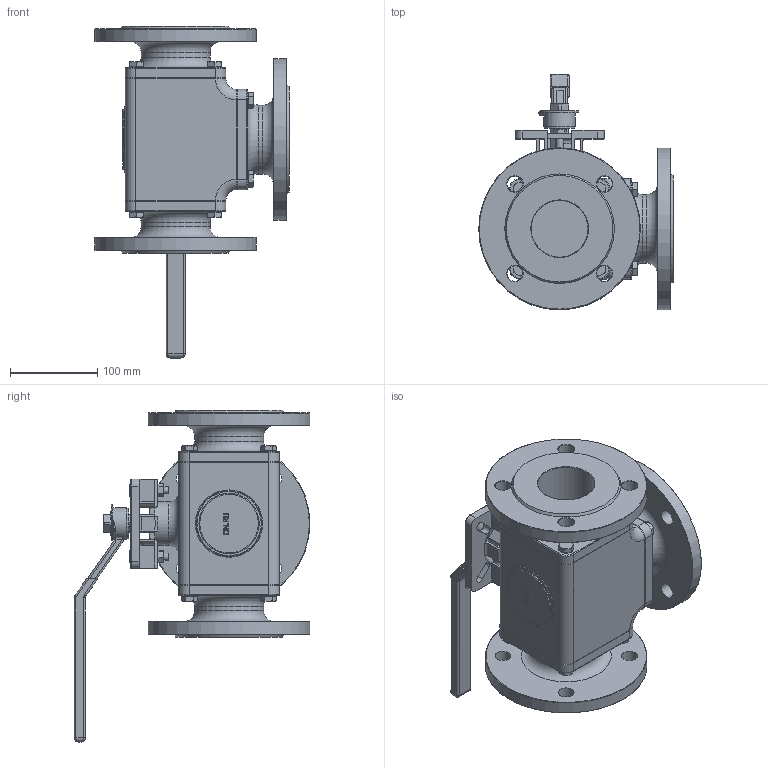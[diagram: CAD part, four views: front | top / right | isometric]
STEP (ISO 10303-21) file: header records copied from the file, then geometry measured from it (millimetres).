
FILE_DESCRIPTION(('STEP AP242'), '1');
FILE_NAME('BV3232P(4pc)-FP-3WL-F-ISO-H Êðàí øàðîâîé DN.ru Äó65 Ðó16', '', ('UNSPECIFIED'), ('UNSPECIFIED'), 'C3D Converter', 'C3D Toolkit', '');
FILE_SCHEMA(('AP242_MANAGED_MODEL_BASED_3D_ENGINEERING_MIM_LF { 1 0 10303 442 1 1 4 }'));
Length unit declared in the file: millimetre
Products named in the file (1): BV3232P(4pc)-FP-3WL-F-ISO-H
Bounding box: 222.5 x 269.89 x 380 mm (x, y, z)
Volume: 4035716.1 mm3; surface area: 461580.4 mm2
Topology: 1 solids, 14 shells, 921 faces, 2224 edges, 1383 vertices
Faces by surface type: plane 473, cylinder 209, cone 134, bspline 58, torus 47
Full cylindrical faces by diameter (mm): 1.336 x1, 1.364 x1, 2 x1, 8 x4, 9 x2, 10 x24, 11 x12, 13 x2, 16 x12, 18 x12, 30 x3, 35 x1, 36 x1, 50 x1, 65 x3, 69 x1, 79 x3, 185 x3
Entity records: 44853 total; most frequent: CARTESIAN_POINT 19737, ORIENTED_EDGE 4190, DIRECTION 4102, EDGE_CURVE 2095, AXIS2_PLACEMENT_3D 1550, VERTEX_POINT 1383, EDGE_LOOP 1194, LINE 1002
